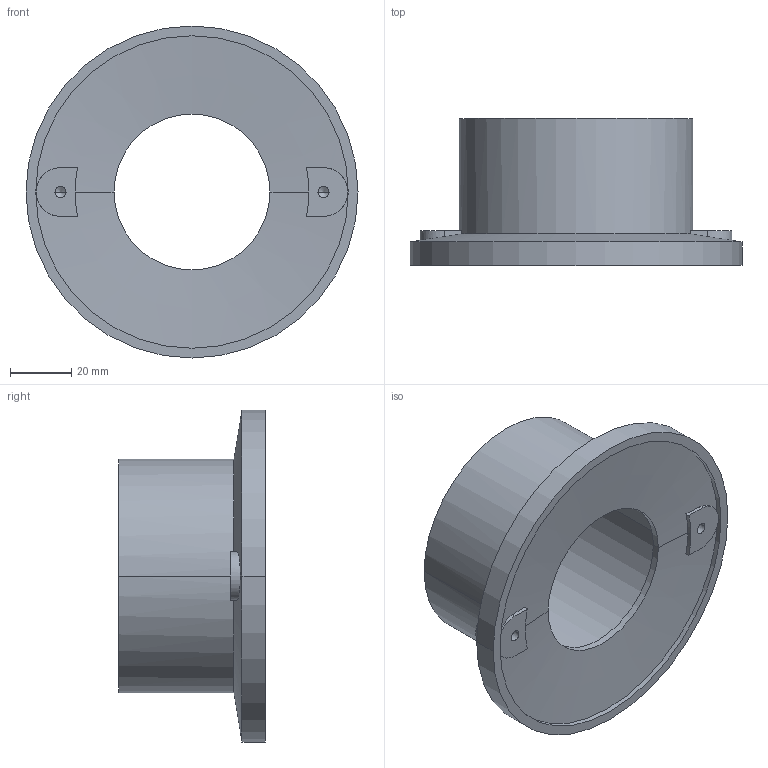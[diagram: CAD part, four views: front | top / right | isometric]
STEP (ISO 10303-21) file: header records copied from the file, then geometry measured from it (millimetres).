
FILE_DESCRIPTION((''),'2;1');
FILE_NAME('\\hsve350x\uidk0133$O$\FIRST\FIRST 2007\Models\Robot 2007\Workspace\GamePieces\GP_2In_Flange.stp','2007-01-12T20:01:44',('uidk0133'),(''),'Autodesk Inventor (R) 6.0','Autodesk Inventor (R) 6.0','');
FILE_SCHEMA(('AUTOMOTIVE_DESIGN { 1 0 10303 214 1 1 1 1 }'));
Length unit declared in the file: inch
Products named in the file (1): GP_2In_Flange
Bounding box: 108.2 x 47.81 x 108.2 mm (x, y, z)
Volume: 110610.3 mm3; surface area: 35278.4 mm2
Topology: 1 solids, 1 shells, 47 faces, 121 edges, 75 vertices
Faces by surface type: cylinder 16, bspline 14, plane 9, cone 6, torus 2
Entity records: 1591 total; most frequent: CARTESIAN_POINT 482, ORIENTED_EDGE 234, DIRECTION 220, EDGE_CURVE 117, AXIS2_PLACEMENT_3D 85, VERTEX_POINT 75, EDGE_LOOP 52, CIRCLE 51
